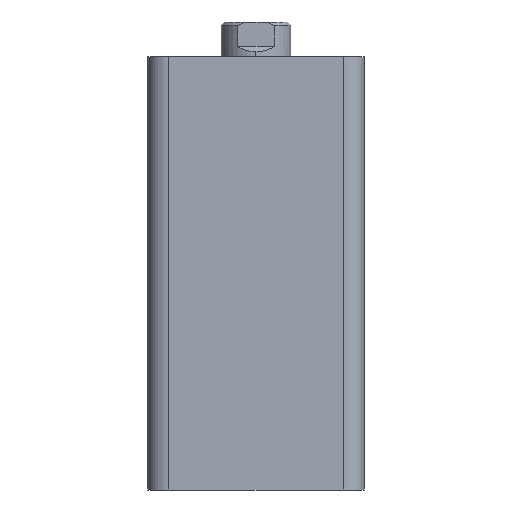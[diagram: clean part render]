
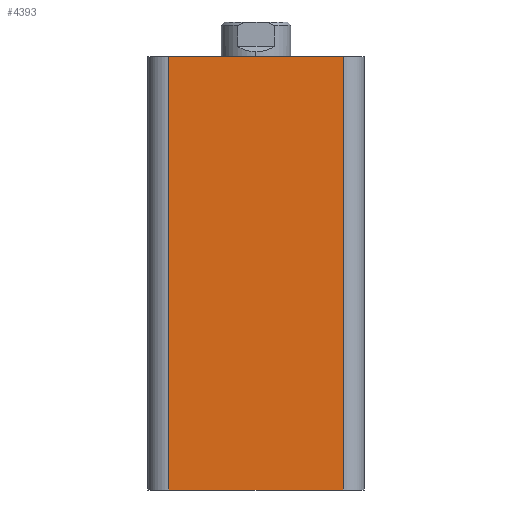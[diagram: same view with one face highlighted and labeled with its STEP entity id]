
A CAD part, left-side view. The second image highlights one B-rep face of the part: STEP entity #4393.
In plain terms, the highlighted planar face has unit normal (-1, 0, 0).
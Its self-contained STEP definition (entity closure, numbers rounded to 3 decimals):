
#102 = VECTOR ( 'NONE', #1968, 1000. ) ;
#104 = VECTOR ( 'NONE', #708, 1000. ) ;
#105 = LINE ( 'NONE', #1972, #102 ) ;
#107 = LINE ( 'NONE', #711, #104 ) ;
#121 = VECTOR ( 'NONE', #735, 1000. ) ;
#127 = LINE ( 'NONE', #729, #121 ) ;
#249 = AXIS2_PLACEMENT_3D ( 'NONE', #3612, #3618, #3619 ) ;
#670 = EDGE_LOOP ( 'NONE', ( #2458, #2459, #2460, #2461 ) ) ;
#708 = DIRECTION ( 'NONE',  ( 0., 0., 1. ) ) ;
#711 = CARTESIAN_POINT ( 'NONE',  ( -31., -25., 124. ) ) ;
#729 = CARTESIAN_POINT ( 'NONE',  ( -31., 31., 0. ) ) ;
#735 = DIRECTION ( 'NONE',  ( 0., -1., 0. ) ) ;
#1175 = CARTESIAN_POINT ( 'NONE',  ( -31., -25., 124. ) ) ;
#1206 = CARTESIAN_POINT ( 'NONE',  ( -31., -25., 0. ) ) ;
#1207 = CARTESIAN_POINT ( 'NONE',  ( -31., 25., 0. ) ) ;
#1297 = CARTESIAN_POINT ( 'NONE',  ( -31., 25., 124. ) ) ;
#1968 = DIRECTION ( 'NONE',  ( 0., 0., -1. ) ) ;
#1972 = CARTESIAN_POINT ( 'NONE',  ( -31., 25., 124. ) ) ;
#1979 = EDGE_CURVE ( 'NONE', #2751, #2750, #127, .T. ) ;
#1989 = EDGE_CURVE ( 'NONE', #2750, #2706, #107, .T. ) ;
#1990 = EDGE_CURVE ( 'NONE', #2892, #2751, #105, .T. ) ;
#2458 = ORIENTED_EDGE ( 'NONE', *, *, #1979, .T. ) ;
#2459 = ORIENTED_EDGE ( 'NONE', *, *, #1989, .T. ) ;
#2460 = ORIENTED_EDGE ( 'NONE', *, *, #2976, .F. ) ;
#2461 = ORIENTED_EDGE ( 'NONE', *, *, #1990, .T. ) ;
#2706 = VERTEX_POINT ( 'NONE', #1175 ) ;
#2750 = VERTEX_POINT ( 'NONE', #1206 ) ;
#2751 = VERTEX_POINT ( 'NONE', #1207 ) ;
#2892 = VERTEX_POINT ( 'NONE', #1297 ) ;
#2976 = EDGE_CURVE ( 'NONE', #2892, #2706, #4787, .T. ) ;
#3430 = CARTESIAN_POINT ( 'NONE',  ( -31., 31., 124. ) ) ;
#3431 = DIRECTION ( 'NONE',  ( 0., -1., 0. ) ) ;
#3612 = CARTESIAN_POINT ( 'NONE',  ( -31., 31., 124. ) ) ;
#3616 = PLANE ( 'NONE',  #249 ) ;
#3618 = DIRECTION ( 'NONE',  ( 1., 0., 0. ) ) ;
#3619 = DIRECTION ( 'NONE',  ( 0., 0., -1. ) ) ;
#4393 = ADVANCED_FACE ( 'NONE', ( #4845 ), #3616, .F. ) ;
#4787 = LINE ( 'NONE', #3430, #4789 ) ;
#4789 = VECTOR ( 'NONE', #3431, 1000. ) ;
#4845 = FACE_OUTER_BOUND ( 'NONE', #670, .T. ) ;
